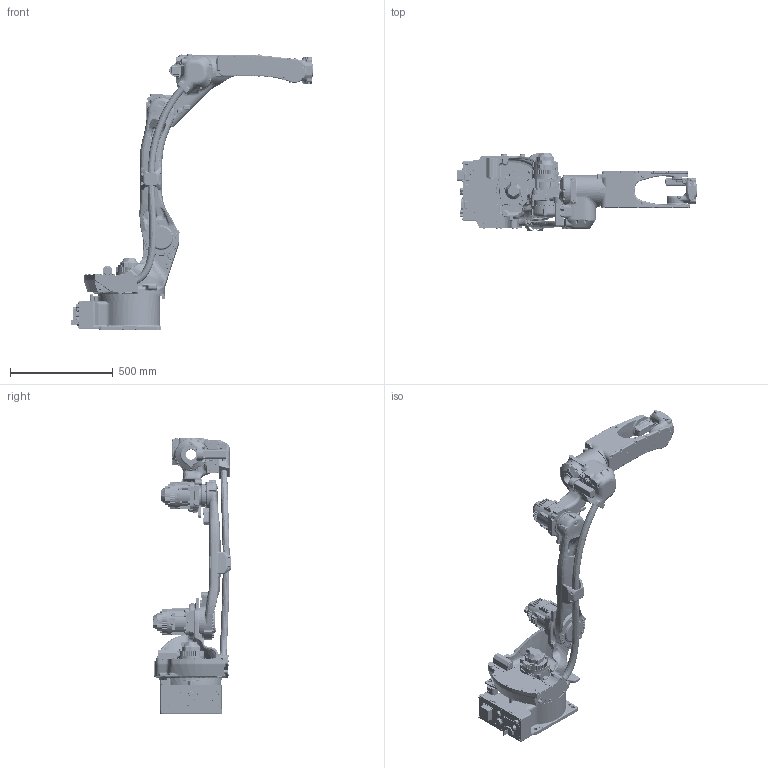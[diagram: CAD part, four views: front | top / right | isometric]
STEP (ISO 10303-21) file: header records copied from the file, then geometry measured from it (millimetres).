
FILE_DESCRIPTION((''),'2;1');
FILE_NAME('ASSY_VIEW_06VXH12-A00_ASM','2019-04-16T',('ttakaoka'),('YASKAWA ELECTRIC CORPORATION'),'PRO/ENGINEER BY PARAMETRIC TECHNOLOGY CORPORATION, 2015030','PRO/ENGINEER BY PARAMETRIC TECHNOLOGY CORPORATION, 2015030','');
FILE_SCHEMA(('CONFIG_CONTROL_DESIGN'));
Products named in the file (8): BASE_VIEW_06VXH12-A00; S_VIEW_06VXH12-A00; L_VIEW_06VXH12-A00; U_VIEW_06VXH12-A00; R_VIEW_06VXH12-A00; B_VIEW_06VXH12-A00; T_VIEW_06VXH12-A00; ASSY_VIEW_06VXH12-A00_ASM
Assembly tree (7 placements, depth 2):
  ASSY_VIEW_06VXH12-A00_ASM
    BASE_VIEW_06VXH12-A00
    S_VIEW_06VXH12-A00
    L_VIEW_06VXH12-A00
    U_VIEW_06VXH12-A00
    R_VIEW_06VXH12-A00
    B_VIEW_06VXH12-A00
    T_VIEW_06VXH12-A00
Bounding box: 1180.4 x 383.5 x 1345 mm (x, y, z)
Volume: 49307953.4 mm3; surface area: 2683925.3 mm2
Topology: 7 solids, 18 shells, 9698 faces, 24430 edges, 15140 vertices
Faces by surface type: cylinder 3510, plane 2932, bspline 1722, torus 753, cone 631, sphere 100, extrusion 49, revolution 1
Entity records: 416573 total; most frequent: CARTESIAN_POINT 191748, ORIENTED_EDGE 48736, DIRECTION 46070, EDGE_CURVE 24368, AXIS2_PLACEMENT_3D 18267, VERTEX_POINT 15136, CIRCLE 10334, EDGE_LOOP 10200
